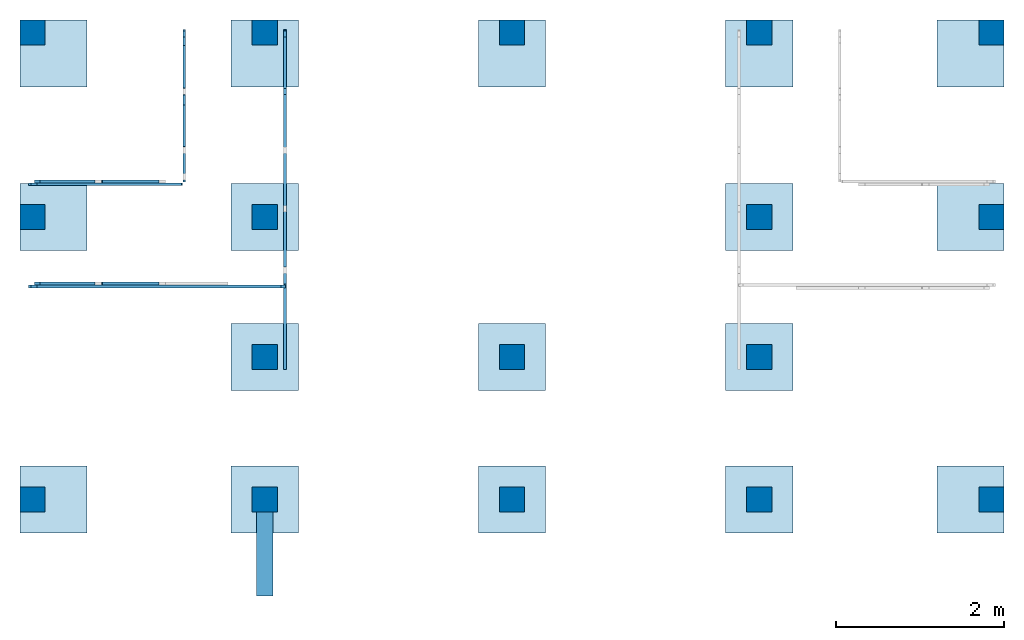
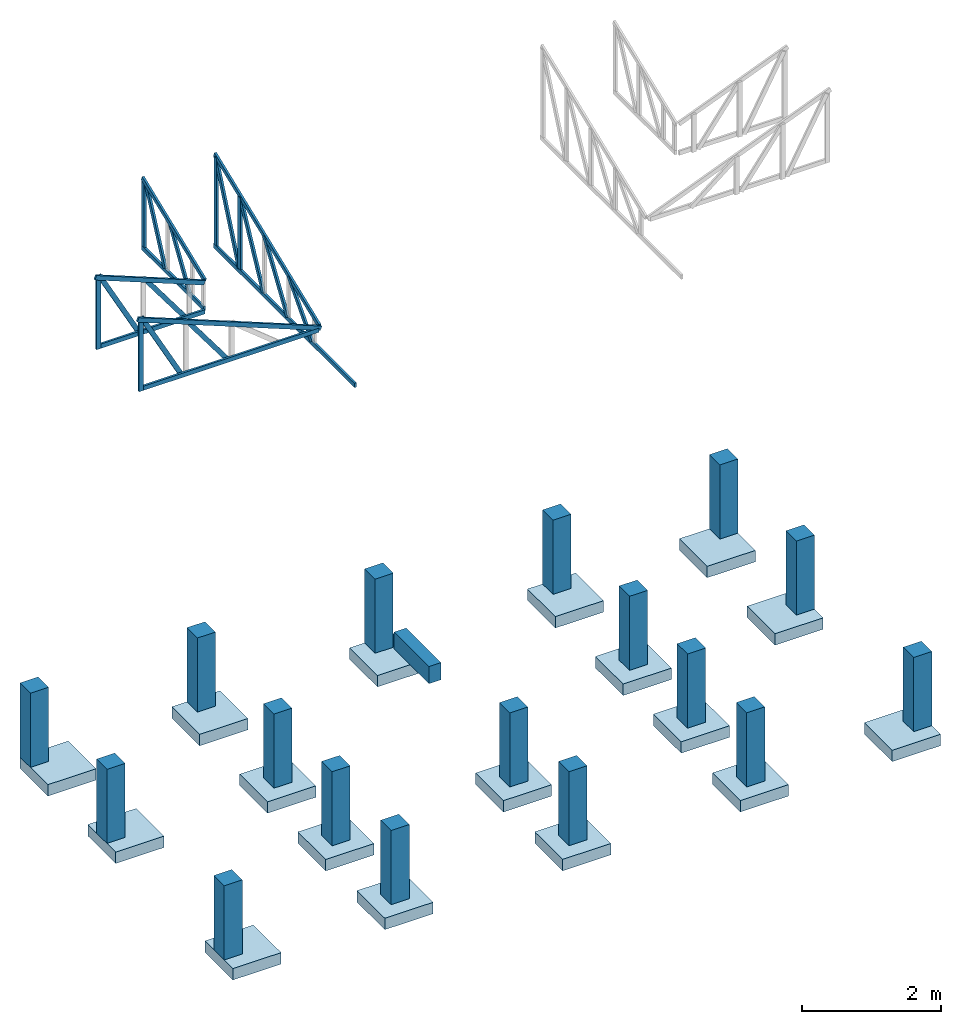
# One storey, part 1 of 2: 23 members, 17 columns, 17 footings, 1 beam, 4 elements without a shape of their own.
"""IFC4X3_ADD2 building model written with IfcOpenShell, lengths in millimetres."""

from ifc_helpers import new_model, entity, si_unit, converted_unit, frame, origin_with_axes, origin_2d_with_axis, place, context, subcontext, project, spatial, rectangle, extrude, clip, halfspace, polygons, shape, source, transform, mapped, material, material_profile, profile_set, profile_usage, type_object, type_shapes, element, aggregate, save


model = new_model("IFC4X3_ADD2")

# Units and contexts
model_context = context("Model", 3, precision=1e-05, world=origin_with_axes())
plan_context = context("Plan", 2, precision=1e-05, world=origin_2d_with_axis())
body_context = subcontext(model_context, "Body", "Model", "MODEL_VIEW")
ifc_project = project(units=[si_unit("VOLUMEUNIT", "CUBIC_METRE"), si_unit("LENGTHUNIT", "METRE", prefix="MILLI"), converted_unit("PLANEANGLEUNIT", "degree", entity("IfcReal", 0.0174532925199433), si_unit("PLANEANGLEUNIT", "RADIAN"), dimensions=[0, 0, 0, 0, 0, 0, 0]), si_unit("AREAUNIT", "SQUARE_METRE")], contexts=[model_context, plan_context])

# Site, building, storey
site_placement = place(None, origin_with_axes())
site = spatial("IfcSite", under=ifc_project, at=site_placement, Name="My Site")
building_placement = place(site_placement, origin_with_axes())
building = spatial("IfcBuilding", under=site, at=building_placement, Name="My Building")
storey_placement = place(building_placement, origin_with_axes())
storey = spatial("IfcBuildingStorey", under=building, at=storey_placement, Name="Pondasi")

# Footings
footing_type = type_object("IfcFootingType", Name="Pad Foot 1", PredefinedType="CAISSON_FOUNDATION")
shared_shape = source(origin_with_axes(), model_context, None, "Tessellation", [
    polygons([(-399.999969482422, -399.999969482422, -199.999954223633), (-399.999969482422, -399.999969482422, 2.38418560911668e-05), (-399.999969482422, 399.999969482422, -199.999954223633), (-399.999969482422, 399.999969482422, 2.38418560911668e-05), (399.999969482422, -399.999969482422, -199.999954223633), (399.999969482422, -399.999969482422, 2.38418560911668e-05), (399.999969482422, 399.999969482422, -199.999954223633), (399.999969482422, 399.999969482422, 2.38418560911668e-05)], [[[1, 2, 4, 3]], [[3, 4, 8, 7]], [[7, 8, 6, 5]], [[5, 6, 2, 1]], [[3, 7, 5, 1]], [[8, 4, 2, 6]]]),
])
type_shapes(footing_type, [shared_shape])
for number, where, z_axis, x_axis, name in (
    (1, (249.999970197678, 0.0, -1300.00007152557), (0.0, 0.0, 1.0), (1.0, 0.0, 0.0), "Footing"),
    (2, (249.999970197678, 5319.99969482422, -1300.00007152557), (0.0, 0.0, 1.0), (1.0, 0.0, 0.0), "Footing"),
    (3, (249.999970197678, 3369.99988555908, -1300.00007152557), (0.0, 0.0, 1.0), (1.0, 0.0, 0.0), "Footing"),
    (4, (2769.99998092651, 0.0, -1300.00007152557), (0.0, 0.0, 1.0), (1.0, 0.0, 0.0), "Footing"),
    (5, (2769.99998092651, 5319.99969482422, -1300.00007152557), (0.0, 0.0, 1.0), (1.0, 0.0, 0.0), "Footing"),
    (6, (2769.99998092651, 3369.99988555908, -1300.00007152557), (0.0, 0.0, 1.0), (1.0, 0.0, 0.0), "Footing"),
    (7, (5720.00026702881, 0.0, -1300.00007152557), (0.0, 0.0, 1.0), (1.0, 0.0, 0.0), "Footing"),
    (8, (5720.00026702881, 5319.99969482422, -1300.00007152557), (0.0, 0.0, 1.0), (1.0, 0.0, 0.0), "Footing"),
    (9, (8670.00007629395, 0.0, -1300.00007152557), (0.0, 0.0, 1.0), (1.0, 0.0, 0.0), "Footing"),
    (10, (8670.00007629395, 3369.99988555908, -1300.00007152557), (0.0, 0.0, 1.0), (1.0, 0.0, 0.0), "Footing"),
    (11, (8670.00007629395, 5319.99969482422, -1300.00007152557), (0.0, 0.0, 1.0), (1.0, 0.0, 0.0), "Footing"),
    (12, (11190.0005340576, 0.0, -1300.00007152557), (0.0, 0.0, 1.0), (1.0, 0.0, 0.0), "Footing"),
    (13, (11190.0005340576, 5319.99969482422, -1300.00007152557), (0.0, 0.0, 1.0), (1.0, 0.0, 0.0), "Footing"),
    (14, (11190.0005340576, 3369.99988555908, -1300.00007152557), (0.0, 0.0, 1.0), (1.0, 0.0, 0.0), "Footing"),
    (15, (2769.99998092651, 1699.99980926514, -1300.00007152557), (0.0, 0.0, 1.0), (1.0, 0.0, 0.0), "Footing"),
    (16, (5720.00026702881, 1699.99980926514, -1300.00007152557), (0.0, 0.0, 1.0), (1.0, 0.0, 0.0), "Footing"),
    (17, (8670.00007629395, 1699.99980926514, -1300.00007152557), (0.0, 0.0, 1.0), (1.0, 0.0, 0.0), "Footing"),
):
    element("IfcFooting", number, at=place(storey_placement, frame(where, z_axis=z_axis, x_axis=x_axis)), inside=storey, type_object=footing_type, Name=name, shapes=[
        shape(model_context, None, "MappedRepresentation", [mapped(shared_shape, transform((0.0, 0.0, 0.0), x_axis=(1.0, 0.0, 0.0), y_axis=(0.0, 1.0, 0.0), z_axis=(0.0, 0.0, 1.0), scale=1.0))]),
    ])

# Columns
ifc_material_1 = material(Name="plester")
ifc_material_profile_1 = material_profile(ifc_material_1, rectangle(XDim=300.0, YDim=300.0))
ifc_profile_set_1 = profile_set([ifc_material_profile_1])
ifc_profile_usage_1 = profile_usage(ifc_profile_set_1, cardinal=5)
column_type = type_object("IfcColumnType", Name="K1", PredefinedType="COLUMN", material=ifc_profile_set_1)
column_1_placement = place(storey_placement, frame((2769.99998092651, 3369.99988555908, -1300.00007152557), z_axis=(0.0, 0.0, 1.0), x_axis=(1.0, 0.0, 0.0)))
element("IfcColumn", 18, at=column_1_placement, inside=storey, type_object=column_type, material=ifc_profile_usage_1, Name="Column", context=body_context, shape_type="SweptSolid", body=[
    extrude(rectangle(XDim=300.0, YDim=300.0), origin_with_axes(), (0.0, 0.0, 1.0), 1300.00006785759),
])
ifc_profile_usage_2 = profile_usage(ifc_profile_set_1, cardinal=5)
column_2_placement = place(storey_placement, frame((0.0, 3369.99988555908, -1300.00007152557), z_axis=(0.0, 0.0, 1.0), x_axis=(1.0, 0.0, 0.0)))
element("IfcColumn", 19, at=column_2_placement, inside=storey, type_object=column_type, material=ifc_profile_usage_2, Name="Column", context=body_context, shape_type="SweptSolid", body=[
    extrude(rectangle(XDim=300.0, YDim=300.0), origin_with_axes(), (0.0, 0.0, 1.0), 1300.00006785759),
])
ifc_profile_usage_3 = profile_usage(ifc_profile_set_1, cardinal=5)
column_3_placement = place(storey_placement, frame((2769.99998092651, 0.0, -1300.00007152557), z_axis=(0.0, 0.0, 1.0), x_axis=(1.0, 0.0, 0.0)))
element("IfcColumn", 20, at=column_3_placement, inside=storey, type_object=column_type, material=ifc_profile_usage_3, Name="Column", context=body_context, shape_type="SweptSolid", body=[
    extrude(rectangle(XDim=300.0, YDim=300.0), origin_with_axes(), (0.0, 0.0, 1.0), 1300.00006785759),
])
ifc_profile_usage_4 = profile_usage(ifc_profile_set_1, cardinal=5)
column_4_placement = place(storey_placement, frame((11440.0005340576, 3369.99988555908, -1300.00007152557), z_axis=(0.0, 0.0, 1.0), x_axis=(1.0, 0.0, 0.0)))
element("IfcColumn", 21, at=column_4_placement, inside=storey, type_object=column_type, material=ifc_profile_usage_4, Name="Column", context=body_context, shape_type="SweptSolid", body=[
    extrude(rectangle(XDim=300.0, YDim=300.0), origin_with_axes(), (0.0, 0.0, 1.0), 1300.00006785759),
])
ifc_profile_usage_5 = profile_usage(ifc_profile_set_1, cardinal=5)
column_5_placement = place(storey_placement, frame((0.0, 0.0, -1300.00007152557), z_axis=(0.0, 0.0, 1.0), x_axis=(1.0, 0.0, 0.0)))
element("IfcColumn", 22, at=column_5_placement, inside=storey, type_object=column_type, material=ifc_profile_usage_5, Name="Column", context=body_context, shape_type="SweptSolid", body=[
    extrude(rectangle(XDim=300.0, YDim=300.0), origin_with_axes(), (0.0, 0.0, 1.0), 1300.00006785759),
])
ifc_profile_usage_6 = profile_usage(ifc_profile_set_1, cardinal=5)
column_6_placement = place(storey_placement, frame((0.0, 5569.99969482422, -1300.00007152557), z_axis=(0.0, 0.0, 1.0), x_axis=(1.0, 0.0, 0.0)))
element("IfcColumn", 23, at=column_6_placement, inside=storey, type_object=column_type, material=ifc_profile_usage_6, Name="Column", context=body_context, shape_type="SweptSolid", body=[
    extrude(rectangle(XDim=300.0, YDim=300.0), origin_with_axes(), (0.0, 0.0, 1.0), 1300.00006785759),
])
ifc_profile_usage_7 = profile_usage(ifc_profile_set_1, cardinal=5)
column_7_placement = place(storey_placement, frame((5720.00026702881, 1699.99980926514, -1300.00007152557), z_axis=(0.0, 0.0, 1.0), x_axis=(1.0, 0.0, 0.0)))
element("IfcColumn", 24, at=column_7_placement, inside=storey, type_object=column_type, material=ifc_profile_usage_7, Name="Column", context=body_context, shape_type="SweptSolid", body=[
    extrude(rectangle(XDim=300.0, YDim=300.0), origin_with_axes(), (0.0, 0.0, 1.0), 1300.00006785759),
])
ifc_profile_usage_8 = profile_usage(ifc_profile_set_1, cardinal=5)
column_8_placement = place(storey_placement, frame((8670.00007629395, 0.0, -1300.00007152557), z_axis=(0.0, 0.0, 1.0), x_axis=(1.0, 0.0, 0.0)))
element("IfcColumn", 25, at=column_8_placement, inside=storey, type_object=column_type, material=ifc_profile_usage_8, Name="Column", context=body_context, shape_type="SweptSolid", body=[
    extrude(rectangle(XDim=300.0, YDim=300.0), origin_with_axes(), (0.0, 0.0, 1.0), 1300.00006785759),
])
ifc_profile_usage_9 = profile_usage(ifc_profile_set_1, cardinal=5)
column_9_placement = place(storey_placement, frame((8670.00007629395, 3369.99988555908, -1300.00007152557), z_axis=(0.0, 0.0, 1.0), x_axis=(1.0, 0.0, 0.0)))
element("IfcColumn", 26, at=column_9_placement, inside=storey, type_object=column_type, material=ifc_profile_usage_9, Name="Column", context=body_context, shape_type="SweptSolid", body=[
    extrude(rectangle(XDim=300.0, YDim=300.0), origin_with_axes(), (0.0, 0.0, 1.0), 1300.00006785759),
])
ifc_profile_usage_10 = profile_usage(ifc_profile_set_1, cardinal=5)
column_10_placement = place(storey_placement, frame((5720.00026702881, 5569.99969482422, -1300.00007152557), z_axis=(0.0, 0.0, 1.0), x_axis=(1.0, 0.0, 0.0)))
element("IfcColumn", 27, at=column_10_placement, inside=storey, type_object=column_type, material=ifc_profile_usage_10, Name="Column", context=body_context, shape_type="SweptSolid", body=[
    extrude(rectangle(XDim=300.0, YDim=300.0), origin_with_axes(), (0.0, 0.0, 1.0), 1300.00006785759),
])
ifc_profile_usage_11 = profile_usage(ifc_profile_set_1, cardinal=5)
column_11_placement = place(storey_placement, frame((8670.00007629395, 5569.99969482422, -1300.00007152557), z_axis=(0.0, 0.0, 1.0), x_axis=(1.0, 0.0, 0.0)))
element("IfcColumn", 28, at=column_11_placement, inside=storey, type_object=column_type, material=ifc_profile_usage_11, Name="Column", context=body_context, shape_type="SweptSolid", body=[
    extrude(rectangle(XDim=300.0, YDim=300.0), origin_with_axes(), (0.0, 0.0, 1.0), 1300.00006785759),
])
ifc_profile_usage_12 = profile_usage(ifc_profile_set_1, cardinal=5)
column_12_placement = place(storey_placement, frame((11440.0005340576, 0.0, -1300.00007152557), z_axis=(0.0, 0.0, 1.0), x_axis=(1.0, 0.0, 0.0)))
element("IfcColumn", 29, at=column_12_placement, inside=storey, type_object=column_type, material=ifc_profile_usage_12, Name="Column", context=body_context, shape_type="SweptSolid", body=[
    extrude(rectangle(XDim=300.0, YDim=300.0), origin_with_axes(), (0.0, 0.0, 1.0), 1300.00006785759),
])
ifc_profile_usage_13 = profile_usage(ifc_profile_set_1, cardinal=5)
column_13_placement = place(storey_placement, frame((2769.99998092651, 5569.99969482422, -1300.00007152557), z_axis=(0.0, 0.0, 1.0), x_axis=(1.0, 0.0, 0.0)))
element("IfcColumn", 30, at=column_13_placement, inside=storey, type_object=column_type, material=ifc_profile_usage_13, Name="Column", context=body_context, shape_type="SweptSolid", body=[
    extrude(rectangle(XDim=300.0, YDim=300.0), origin_with_axes(), (0.0, 0.0, 1.0), 1300.00006785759),
])
ifc_profile_usage_14 = profile_usage(ifc_profile_set_1, cardinal=5)
column_14_placement = place(storey_placement, frame((8670.00007629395, 1699.99980926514, -1300.00007152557), z_axis=(0.0, 0.0, 1.0), x_axis=(1.0, 0.0, 0.0)))
element("IfcColumn", 31, at=column_14_placement, inside=storey, type_object=column_type, material=ifc_profile_usage_14, Name="Column", context=body_context, shape_type="SweptSolid", body=[
    extrude(rectangle(XDim=300.0, YDim=300.0), origin_with_axes(), (0.0, 0.0, 1.0), 1300.00006785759),
])
ifc_profile_usage_15 = profile_usage(ifc_profile_set_1, cardinal=5)
column_15_placement = place(storey_placement, frame((2769.99998092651, 1699.99980926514, -1300.00007152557), z_axis=(0.0, 0.0, 1.0), x_axis=(1.0, 0.0, 0.0)))
element("IfcColumn", 32, at=column_15_placement, inside=storey, type_object=column_type, material=ifc_profile_usage_15, Name="Column", context=body_context, shape_type="SweptSolid", body=[
    extrude(rectangle(XDim=300.0, YDim=300.0), origin_with_axes(), (0.0, 0.0, 1.0), 1300.00006785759),
])
ifc_profile_usage_16 = profile_usage(ifc_profile_set_1, cardinal=5)
column_16_placement = place(storey_placement, frame((5720.00026702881, 0.0, -1300.00007152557), z_axis=(0.0, 0.0, 1.0), x_axis=(1.0, 0.0, 0.0)))
element("IfcColumn", 33, at=column_16_placement, inside=storey, type_object=column_type, material=ifc_profile_usage_16, Name="Column", context=body_context, shape_type="SweptSolid", body=[
    extrude(rectangle(XDim=300.0, YDim=300.0), origin_with_axes(), (0.0, 0.0, 1.0), 1300.00006785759),
])
ifc_profile_usage_17 = profile_usage(ifc_profile_set_1, cardinal=5)
column_17_placement = place(storey_placement, frame((11440.0005340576, 5569.99969482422, -1300.00007152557), z_axis=(0.0, 0.0, 1.0), x_axis=(1.0, 0.0, 0.0)))
element("IfcColumn", 34, at=column_17_placement, inside=storey, type_object=column_type, material=ifc_profile_usage_17, Name="Column", context=body_context, shape_type="SweptSolid", body=[
    extrude(rectangle(XDim=300.0, YDim=300.0), origin_with_axes(), (0.0, 0.0, 1.0), 1300.00006785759),
])

# Beam
ifc_material_profile_2 = material_profile(ifc_material_1, rectangle(XDim=200.0, YDim=300.0))
ifc_profile_set_2 = profile_set([ifc_material_profile_2])
ifc_profile_usage_18 = profile_usage(ifc_profile_set_2, cardinal=8)
beam_type = type_object("IfcBeamType", Name="TB1", PredefinedType="BEAM", material=ifc_profile_set_2)
beam_placement = place(storey_placement, frame((2770.00021934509, -149.999529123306, 3465.00015258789), z_axis=(-4.47034800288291e-08, -0.999999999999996, 7.5497901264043e-08), x_axis=(0.999999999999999, -4.47034800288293e-08, 0.0)))
element("IfcBeam", 35, at=beam_placement, inside=storey, type_object=beam_type, material=ifc_profile_usage_18, Name="Beam", context=body_context, shape_type="SweptSolid", body=[
    extrude(rectangle(XDim=200.0, YDim=300.0), frame((0.0, -150.0, 0.0), z_axis=(0.0, 0.0, 1.0), x_axis=(1.0, 0.0, 0.0)), (0.0, 0.0, 1.0), 1000.0),
])

# Assembly, members
assembly_1_placement = place(storey_placement, frame((3027.53567695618, 5188.17663192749, 6674.02648925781), z_axis=(0.0, 0.0, 1.0), x_axis=(1.0, 0.0, 0.0)))
assembly_1 = element("IfcElementAssembly", 36, at=assembly_1_placement, inside=storey, Name="KK4")
ifc_material_2 = material(Name="Galvanis")
ifc_material_profile_3 = material_profile(ifc_material_2, rectangle(XDim=35.0, YDim=75.0))
ifc_profile_set_3 = profile_set([ifc_material_profile_3])
ifc_profile_usage_19 = profile_usage(ifc_profile_set_3, cardinal=2)
member_type = type_object("IfcMemberType", Name="C75", PredefinedType="MEMBER", material=ifc_profile_set_3)
member_1_placement = place(assembly_1_placement, frame((-17.535686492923, -962.112426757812, -26.6523361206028), z_axis=(-3.41735422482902e-08, 0.464471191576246, 0.885588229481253), x_axis=(-0.999999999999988, -1.50995802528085e-07, 4.06053892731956e-08)))
member_1 = element("IfcMember", 37, at=member_1_placement, type_object=member_type, material=ifc_profile_usage_19, Name="Member.057", context=body_context, shape_type="SweptSolid", body=[
    extrude(rectangle(XDim=35.0, YDim=75.0), frame((0.0, 37.5, 0.0), z_axis=(0.0, 0.0, 1.0), x_axis=(1.0, 0.0, 0.0)), (0.0, 0.0, 1.0), 1455.30195114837),
])
ifc_profile_usage_20 = profile_usage(ifc_profile_set_3, cardinal=2)
member_2_placement = place(assembly_1_placement, frame((-17.5356864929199, 401.823043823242, 8.18347930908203), z_axis=(0.0, 0.0, 1.0), x_axis=(-0.999999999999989, -1.50995802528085e-07, 0.0)))
member_2 = element("IfcMember", 38, at=member_2_placement, type_object=member_type, material=ifc_profile_usage_20, Name="Member.054", context=body_context, shape_type="SweptSolid", body=[
    extrude(rectangle(XDim=35.0, YDim=75.0), frame((0.0, 37.5, 0.0), z_axis=(0.0, 0.0, 1.0), x_axis=(1.0, 0.0, 0.0)), (0.0, 0.0, 1.0), 1534.38760476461),
])
ifc_profile_usage_21 = profile_usage(ifc_profile_set_3, cardinal=2)
member_3_placement = place(assembly_1_placement, frame((-17.535686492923, -263.592720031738, -21.6598510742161), z_axis=(-2.81693883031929e-08, 0.397916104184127, 0.917421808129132), x_axis=(-0.999999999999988, -1.50995802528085e-07, 3.47869146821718e-08)))
member_3 = element("IfcMember", 39, at=member_3_placement, type_object=member_type, material=ifc_profile_usage_21, Name="Member.060", context=body_context, shape_type="SweptSolid", body=[
    extrude(rectangle(XDim=35.0, YDim=75.0), frame((0.0, 37.5, 0.0), z_axis=(0.0, 0.0, 1.0), x_axis=(1.0, 0.0, 0.0)), (0.0, 0.0, 1.0), 1704.00113135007),
])
ifc_profile_usage_22 = profile_usage(ifc_profile_set_3, cardinal=2)
member_4_placement = place(assembly_1_placement, frame((-17.535686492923, -2360.83436012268, -42.0446395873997), z_axis=(-5.76451710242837e-08, 0.669715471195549, 0.742617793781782), x_axis=(-0.999999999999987, -1.50995802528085e-07, 5.85483554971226e-08)))
member_4 = element("IfcMember", 40, at=member_4_placement, type_object=member_type, material=ifc_profile_usage_22, Name="Member.056", context=body_context, shape_type="SweptSolid", body=[
    extrude(rectangle(XDim=35.0, YDim=75.0), frame((0.0, 37.5, 0.0), z_axis=(0.0, 0.0, 1.0), x_axis=(1.0, 0.0, 0.0)), (0.0, 0.0, 1.0), 1002.38325319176),
])
ifc_profile_usage_23 = profile_usage(ifc_profile_set_3, cardinal=2)
member_5_placement = place(assembly_1_placement, frame((-17.5356864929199, 416.822910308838, -66.8163299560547), z_axis=(0.0, -0.999999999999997, 7.54979012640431e-08), x_axis=(1.0, 0.0, 0.0)))
member_5 = element("IfcMember", 41, at=member_5_placement, type_object=member_type, material=ifc_profile_usage_23, Name="Member.052", context=body_context, shape_type="SweptSolid", body=[
    extrude(rectangle(XDim=35.0, YDim=75.0), frame((0.0, 37.5, 0.0), z_axis=(0.0, 0.0, 1.0), x_axis=(1.0, 0.0, 0.0)), (0.0, 0.0, 1.0), 4054.998896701),
])
ifc_profile_usage_24 = profile_usage(ifc_profile_set_3, cardinal=2)
member_6_placement = place(assembly_1_placement, frame((-17.535686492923, -1660.92586517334, -33.2698822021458), z_axis=(-4.31898773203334e-08, 0.552720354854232, 0.83336679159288), x_axis=(-0.999999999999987, -1.50995802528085e-07, 4.83203450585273e-08)))
member_6 = element("IfcMember", 42, at=member_6_placement, type_object=member_type, material=ifc_profile_usage_24, Name="Member.064", context=body_context, shape_type="SweptSolid", body=[
    extrude(rectangle(XDim=35.0, YDim=75.0), frame((0.0, 37.5, 0.0), z_axis=(0.0, 0.0, 1.0), x_axis=(1.0, 0.0, 0.0)), (0.0, 0.0, 1.0), 1218.86084125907),
])
ifc_profile_usage_25 = profile_usage(ifc_profile_set_3, cardinal=2)
member_7_placement = place(assembly_1_placement, frame((-17.5356864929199, -283.177852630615, 8.18347930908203), z_axis=(-4.35708814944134e-13, 4.06124991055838e-06, 0.999999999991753), x_axis=(-0.999999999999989, -1.50995802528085e-07, 1.77522872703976e-13)))
member_7 = element("IfcMember", 43, at=member_7_placement, type_object=member_type, material=ifc_profile_usage_25, Name="Member.065", context=body_context, shape_type="SweptSolid", body=[
    extrude(rectangle(XDim=35.0, YDim=75.0), frame((0.0, 37.5, 0.0), z_axis=(0.0, 0.0, 1.0), x_axis=(1.0, 0.0, 0.0)), (0.0, 0.0, 1.0), 1255.1569895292),
])
ifc_profile_usage_26 = profile_usage(ifc_profile_set_3, cardinal=8)
member_8_placement = place(assembly_1_placement, frame((-17.5356864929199, 389.034748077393, 1612.23220825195), z_axis=(0.0, -0.92945487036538, -0.368935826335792), x_axis=(1.0, 0.0, 0.0)))
member_8 = element("IfcMember", 44, at=member_8_placement, type_object=member_type, material=ifc_profile_usage_26, Name="Member.063", context=body_context, shape_type="SweptSolid", body=[
    extrude(rectangle(XDim=35.0, YDim=75.0), frame((0.0, -37.5, 0.0), z_axis=(0.0, 0.0, 1.0), x_axis=(1.0, 0.0, 0.0)), (0.0, 0.0, 1.0), 3235.31790363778),
])
aggregate(assembly_1, [member_1, member_2, member_3, member_4, member_5, member_6, member_7, member_8])

assembly_2_placement = place(storey_placement, frame((1827.50594615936, 5455.30414581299, 7060.82105636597), z_axis=(0.0, 0.0, 1.0), x_axis=(1.0, 0.0, 0.0)))
assembly_2 = element("IfcElementAssembly", 45, at=assembly_2_placement, inside=storey, Name="KK7")
ifc_profile_usage_27 = profile_usage(ifc_profile_set_3, cardinal=2)
member_9_placement = place(assembly_2_placement, frame((-17.5060033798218, 134.695529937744, 14.1787528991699), z_axis=(0.0, 0.0, 1.0), x_axis=(-0.999999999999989, -1.50995802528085e-07, 0.0)))
member_9 = element("IfcMember", 46, at=member_9_placement, type_object=member_type, material=ifc_profile_usage_27, Name="Member.054", context=body_context, shape_type="Clipping", body=[
    clip(extrude(rectangle(XDim=35.0, YDim=75.0), frame((0.0, 37.5, 0.0), z_axis=(0.0, 0.0, 1.0), x_axis=(1.0, 0.0, 0.0)), (0.0, 0.0, 1.0), 1210.64282185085), halfspace(frame((-1.18486127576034e-05, -14.8822916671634, 1141.55006408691), z_axis=(5.5707754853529e-08, 0.368935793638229, 0.929454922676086), x_axis=(0.999999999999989, -1.50995798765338e-07, 0.0)), False)),
])
ifc_profile_usage_28 = profile_usage(ifc_profile_set_3, cardinal=2)
member_10_placement = place(assembly_2_placement, frame((-17.5060033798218, 134.695529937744, -60.8210563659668), z_axis=(0.0, -0.999999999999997, 7.54979012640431e-08), x_axis=(1.0, 0.0, 0.0)))
member_10 = element("IfcMember", 47, at=member_10_placement, type_object=member_type, material=ifc_profile_usage_28, Name="Member.052", context=body_context, shape_type="SweptSolid", body=[
    extrude(rectangle(XDim=35.0, YDim=75.0), frame((0.0, 37.5, 0.0), z_axis=(0.0, 0.0, 1.0), x_axis=(1.0, 0.0, 0.0)), (0.0, 0.0, 1.0), 1777.82867858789),
])
ifc_profile_usage_29 = profile_usage(ifc_profile_set_3, cardinal=2)
member_11_placement = place(assembly_2_placement, frame((-17.5060033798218, -480.384349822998, -16.1666870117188), z_axis=(-2.87191390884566e-08, 0.42940470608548, 0.903112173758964), x_axis=(-0.999999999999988, -1.50995802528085e-07, 3.99941129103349e-08)))
member_11 = element("IfcMember", 48, at=member_11_placement, type_object=member_type, material=ifc_profile_usage_29, Name="Member.060", context=body_context, shape_type="Clipping", body=[
    clip(extrude(rectangle(XDim=35.0, YDim=75.0), frame((0.0, 37.5, 0.0), z_axis=(0.0, 0.0, 1.0), x_axis=(1.0, 0.0, 0.0)), (0.0, 0.0, 1.0), 1333.20154591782), halfspace(frame((-4.08628864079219e-05, -65.7083615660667, 1328.86171340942), z_axis=(9.28804766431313e-08, 0.732302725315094, 0.680979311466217), x_axis=(0.999999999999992, -1.26833443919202e-07, 0.0)), False)),
])
ifc_profile_usage_30 = profile_usage(ifc_profile_set_3, cardinal=2)
member_12_placement = place(assembly_2_placement, frame((-17.5060033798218, -1181.29110336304, -22.1586227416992), z_axis=(-3.62903763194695e-08, 0.537160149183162, 0.8434802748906), x_axis=(-0.999999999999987, -1.50995802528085e-07, 5.3135266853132e-08)))
member_12 = element("IfcMember", 49, at=member_12_placement, type_object=member_type, material=ifc_profile_usage_30, Name="Member.057", context=body_context, shape_type="Clipping", body=[
    clip(extrude(rectangle(XDim=35.0, YDim=75.0), frame((0.0, 37.5, 0.0), z_axis=(0.0, 0.0, 1.0), x_axis=(1.0, 0.0, 0.0)), (0.0, 0.0, 1.0), 1105.70798516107), halfspace(frame((-5.20971354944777e-05, -489.847183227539, 1708.41419696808), z_axis=(1.05094599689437e-07, 0.810456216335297, 0.585799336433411), x_axis=(0.999999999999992, -1.29673383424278e-07, 0.0)), False)),
])
ifc_profile_usage_31 = profile_usage(ifc_profile_set_3, cardinal=8)
member_13_placement = place(assembly_2_placement, frame((-17.5060033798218, 121.907234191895, 1225.4376411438), z_axis=(0.0, -0.92945487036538, -0.368935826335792), x_axis=(1.0, 0.0, 0.0)))
member_13 = element("IfcMember", 50, at=member_13_placement, type_object=member_type, material=ifc_profile_usage_31, Name="Member.063", context=body_context, shape_type="SweptSolid", body=[
    extrude(rectangle(XDim=35.0, YDim=75.0), frame((0.0, -37.5, 0.0), z_axis=(0.0, 0.0, 1.0), x_axis=(1.0, 0.0, 0.0)), (0.0, 0.0, 1.0), 1928.28270129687),
])
aggregate(assembly_2, [member_9, member_10, member_11, member_12, member_13])

assembly_3_placement = place(storey_placement, frame((-19.7178199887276, 3742.49935150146, 6997.07698822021), z_axis=(0.0, 0.0, 1.0), x_axis=(1.0, 0.0, 0.0)))
assembly_3 = element("IfcElementAssembly", 51, at=assembly_3_placement, inside=storey, Name="KK10")
ifc_profile_usage_32 = profile_usage(ifc_profile_set_3, cardinal=8)
member_14_placement = place(assembly_3_placement, frame((1806.61822110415, 17.5001621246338, 581.689357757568), z_axis=(-0.928827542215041, 1.77179007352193e-07, 0.370512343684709), x_axis=(-1.62920684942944e-07, -0.999999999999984, 6.97784869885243e-08)))
member_14 = element("IfcMember", 52, at=member_14_placement, type_object=member_type, material=ifc_profile_usage_32, Name="Member", context=body_context, shape_type="SweptSolid", body=[
    extrude(rectangle(XDim=35.0, YDim=75.0), frame((0.0, -37.5, 0.0), z_axis=(0.0, 0.0, 1.0), x_axis=(1.0, 0.0, 0.0)), (0.0, 0.0, 1.0), 1945.05289942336),
])
ifc_profile_usage_33 = profile_usage(ifc_profile_set_3, cardinal=2)
member_15_placement = place(assembly_3_placement, frame((75.0000551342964, 17.4999237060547, -0.00095367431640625), z_axis=(0.999999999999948, -7.54978231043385e-08, 3.13916473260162e-07), x_axis=(7.5497901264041e-08, 0.999999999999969, -2.384185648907e-07)))
member_15 = element("IfcMember", 53, at=member_15_placement, type_object=member_type, material=ifc_profile_usage_33, Name="Member", context=body_context, shape_type="SweptSolid", body=[
    extrude(rectangle(XDim=35.0, YDim=75.0), frame((0.0, 37.5, 0.0), z_axis=(0.0, 0.0, 1.0), x_axis=(1.0, 0.0, 0.0)), (0.0, 0.0, 1.0), 1719.62729519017),
])
ifc_profile_usage_34 = profile_usage(ifc_profile_set_3, cardinal=8)
member_16_placement = place(assembly_3_placement, frame((699.999935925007, 52.4997711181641, -0.00095367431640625), z_axis=(-0.473434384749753, 2.38127581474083e-07, 0.880829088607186), x_axis=(3.13916473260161e-07, 0.999999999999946, -1.01618724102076e-07)))
member_16 = element("IfcMember", 54, at=member_16_placement, type_object=member_type, material=ifc_profile_usage_34, Name="Member", context=body_context, shape_type="SweptSolid", body=[
    extrude(rectangle(XDim=35.0, YDim=75.0), frame((0.0, -37.5, 0.0), z_axis=(0.0, 0.0, 1.0), x_axis=(1.0, 0.0, 0.0)), (0.0, 0.0, 1.0), 1391.96338969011),
])
ifc_profile_usage_35 = profile_usage(ifc_profile_set_3, cardinal=8)
member_17_placement = place(assembly_3_placement, frame((-0.000111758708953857, 17.5004005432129, 1296.60892486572), z_axis=(8.74227410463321e-08, -3.89414395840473e-07, -0.999999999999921), x_axis=(-7.54979012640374e-08, -0.999999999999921, 3.89414367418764e-07)))
member_17 = element("IfcMember", 55, at=member_17_placement, type_object=member_type, material=ifc_profile_usage_35, Name="Member", context=body_context, shape_type="Clipping", body=[
    clip(extrude(rectangle(XDim=35.0, YDim=75.0), frame((0.0, -37.5, 0.0), z_axis=(0.0, 0.0, 1.0), x_axis=(1.0, 0.0, 0.0)), (0.0, 0.0, 1.0), 1296.60798966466), halfspace(frame((-0.000308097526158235, -1778.82981300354, 784.581303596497), z_axis=(2.44319011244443e-07, -0.370512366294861, -0.92882764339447), x_axis=(-0.999999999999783, -6.59408520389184e-07, 0.0)), False)),
])
ifc_profile_usage_36 = profile_usage(ifc_profile_set_3, cardinal=8)
member_18_placement = place(assembly_3_placement, frame((1466.06219559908, 52.5002479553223, -0.000476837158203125), z_axis=(-0.596147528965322, 2.14599520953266e-07, 0.802874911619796), x_axis=(3.13916473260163e-07, 0.99999999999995, -3.42008377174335e-08)))
member_18 = element("IfcMember", 56, at=member_18_placement, type_object=member_type, material=ifc_profile_usage_36, Name="Member", context=body_context, shape_type="Clipping", body=[
    clip(extrude(rectangle(XDim=35.0, YDim=75.0), frame((0.0, -37.5, 0.0), z_axis=(0.0, 0.0, 1.0), x_axis=(1.0, 0.0, 0.0)), (0.0, 0.0, 1.0), 1123.39803761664), halfspace(frame((-0.000252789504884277, -71.6511160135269, 1144.89614963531), z_axis=(-1.64904861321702e-07, 0.80287492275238, 0.596147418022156), x_axis=(0.999999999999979, 2.05392965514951e-07, 0.0)), False)),
])
aggregate(assembly_3, [member_14, member_15, member_16, member_17, member_18])

assembly_4_placement = place(storey_placement, frame((-19.7178162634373, 2559.99946594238, 6997.07698822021), z_axis=(0.0, 0.0, 1.0), x_axis=(1.0, 0.0, 0.0)))
assembly_4 = element("IfcElementAssembly", 57, at=assembly_4_placement, inside=storey, Name="KK9")
ifc_profile_usage_37 = profile_usage(ifc_profile_set_3, cardinal=8)
member_19_placement = place(assembly_4_placement, frame((3036.95667162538, -17.4996852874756, 90.9032821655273), z_axis=(-0.928827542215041, 1.77179007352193e-07, 0.370512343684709), x_axis=(-1.62920684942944e-07, -0.999999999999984, 6.97784869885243e-08)))
member_19 = element("IfcMember", 58, at=member_19_placement, type_object=member_type, material=ifc_profile_usage_37, Name="Member", context=body_context, shape_type="SweptSolid", body=[
    extrude(rectangle(XDim=35.0, YDim=75.0), frame((0.0, -37.5, 0.0), z_axis=(0.0, 0.0, 1.0), x_axis=(1.0, 0.0, 0.0)), (0.0, 0.0, 1.0), 3269.66719077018),
])
ifc_profile_usage_38 = profile_usage(ifc_profile_set_3, cardinal=2)
member_20_placement = place(assembly_4_placement, frame((75.0000514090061, -17.4999237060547, -0.00095367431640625), z_axis=(0.999999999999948, -7.54978231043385e-08, 3.13916473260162e-07), x_axis=(7.5497901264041e-08, 0.999999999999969, -2.384185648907e-07)))
member_20 = element("IfcMember", 59, at=member_20_placement, type_object=member_type, material=ifc_profile_usage_38, Name="Member", context=body_context, shape_type="SweptSolid", body=[
    extrude(rectangle(XDim=35.0, YDim=75.0), frame((0.0, 37.5, 0.0), z_axis=(0.0, 0.0, 1.0), x_axis=(1.0, 0.0, 0.0)), (0.0, 0.0, 1.0), 2907.81598303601),
])
ifc_profile_usage_39 = profile_usage(ifc_profile_set_3, cardinal=8)
member_21_placement = place(assembly_4_placement, frame((1466.06219187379, 17.5004005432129, -0.000476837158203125), z_axis=(-0.596147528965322, 2.14599520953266e-07, 0.802874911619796), x_axis=(3.13916473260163e-07, 0.99999999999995, -3.42008377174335e-08)))
member_21 = element("IfcMember", 60, at=member_21_placement, type_object=member_type, material=ifc_profile_usage_39, Name="Member", context=body_context, shape_type="Clipping", body=[
    clip(extrude(rectangle(XDim=35.0, YDim=75.0), frame((0.0, -37.5, 0.0), z_axis=(0.0, 0.0, 1.0), x_axis=(1.0, 0.0, 0.0)), (0.0, 0.0, 1.0), 1123.39803761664), halfspace(frame((-0.000491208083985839, -71.6509222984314, 1144.89591121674), z_axis=(-1.64904861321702e-07, 0.80287492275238, 0.596147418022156), x_axis=(0.999999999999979, 2.05392965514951e-07, 0.0)), False)),
])
ifc_profile_usage_40 = profile_usage(ifc_profile_set_3, cardinal=8)
member_22_placement = place(assembly_4_placement, frame((699.999932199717, 17.5001621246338, -0.00095367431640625), z_axis=(-0.473434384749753, 2.38127581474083e-07, 0.880829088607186), x_axis=(3.13916473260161e-07, 0.999999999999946, -1.01618724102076e-07)))
member_22 = element("IfcMember", 61, at=member_22_placement, type_object=member_type, material=ifc_profile_usage_40, Name="Member", context=body_context, shape_type="SweptSolid", body=[
    extrude(rectangle(XDim=35.0, YDim=75.0), frame((0.0, -37.5, 0.0), z_axis=(0.0, 0.0, 1.0), x_axis=(1.0, 0.0, 0.0)), (0.0, 0.0, 1.0), 1391.96338969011),
])
ifc_profile_usage_41 = profile_usage(ifc_profile_set_3, cardinal=8)
member_23_placement = place(assembly_4_placement, frame((-0.000115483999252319, -17.4994468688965, 1296.60892486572), z_axis=(8.74227410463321e-08, -3.89414395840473e-07, -0.999999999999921), x_axis=(-7.54979012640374e-08, -0.999999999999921, 3.89414367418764e-07)))
member_23 = element("IfcMember", 62, at=member_23_placement, type_object=member_type, material=ifc_profile_usage_41, Name="Member", context=body_context, shape_type="Clipping", body=[
    clip(extrude(rectangle(XDim=35.0, YDim=75.0), frame((0.0, -37.5, 0.0), z_axis=(0.0, 0.0, 1.0), x_axis=(1.0, 0.0, 0.0)), (0.0, 0.0, 1.0), 1296.60798966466), halfspace(frame((-0.000592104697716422, -3009.16838645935, 1275.36702156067), z_axis=(2.44319011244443e-07, -0.370512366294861, -0.92882764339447), x_axis=(-0.999999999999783, -6.59408520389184e-07, 0.0)), False)),
])
aggregate(assembly_4, [member_19, member_20, member_21, member_22, member_23])

save(model, "model.ifc")
